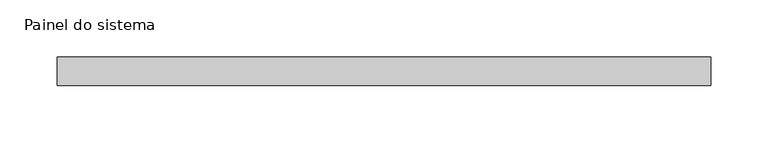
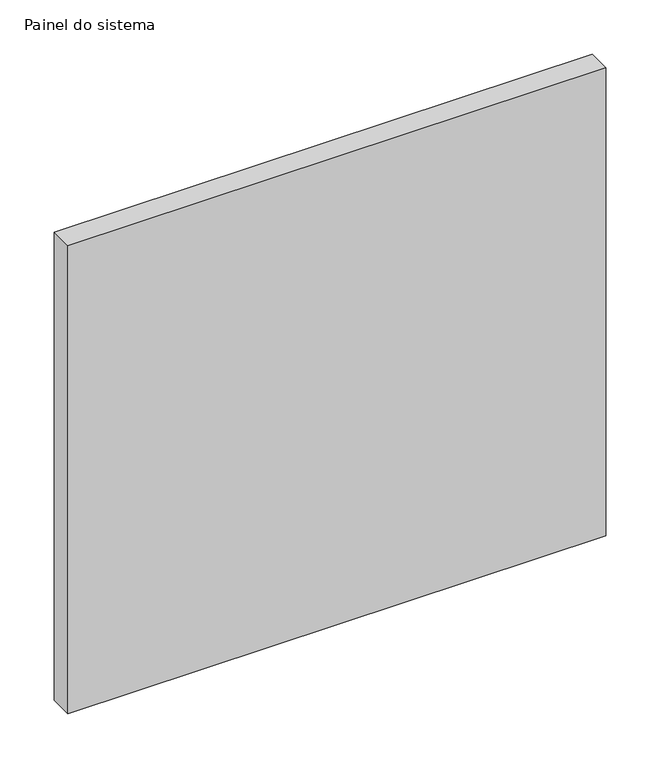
"""IFC4 building model written with IfcOpenShell, lengths in millimetres: plate geometry, Painel do sistema : Envidraçado."""

from ifc_helpers import new_model, si_unit, origin, origin_with_axes, place, context, project, spatial, polyline, outline, extrude, source, transform, mapped, element, save


def painel_do_sistema_83faaa4c(model_context):
    return source(origin(), model_context, "Body", "SweptSolid", [
        extrude(outline(polyline([(285.4166667, 24.5), (-285.4166667, 24.5), (-285.4166667, 49.5), (285.4166667, 49.5), (285.4166667, 24.5)])), origin_with_axes(), (0.0, 0.0, 1.0), 525.0),
    ])


if __name__ == "__main__":
    model = new_model("IFC4")
    model_context = context("Model", 3, world=origin())
    ifc_project = project(units=[si_unit("LENGTHUNIT", "METRE", prefix="MILLI")], contexts=[model_context])
    site = spatial("IfcSite", under=ifc_project)
    building = spatial("IfcBuilding", under=site)
    placement = place(None, origin())
    painel_do_sistema_shape = painel_do_sistema_83faaa4c(model_context)
    element("IfcPlate", 1, ObjectType="Painel do sistema : Envidraçado", at=placement, inside=building, context=model_context, shape_type="MappedRepresentation", body=[
        mapped(painel_do_sistema_shape, transform((0.0, 0.0, 0.0), x_axis=(1.0, 0.0, 0.0), y_axis=(0.0, 1.0, 0.0), z_axis=(0.0, 0.0, 1.0))),
    ])
    save(model, "model.ifc")
